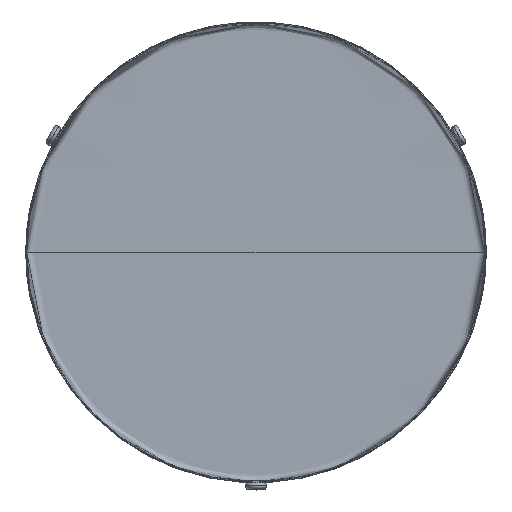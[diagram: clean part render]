
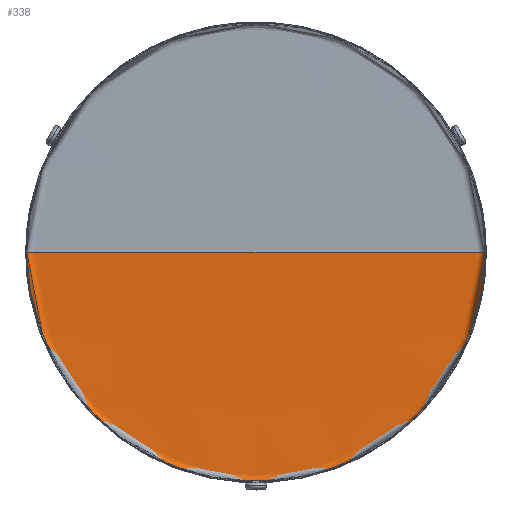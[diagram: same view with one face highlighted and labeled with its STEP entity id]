
A CAD part, top view. The second image highlights one B-rep face of the part: STEP entity #338.
In plain terms, the highlighted free-form (B-spline) face has degree [2, 2] with [7, 5] control points.
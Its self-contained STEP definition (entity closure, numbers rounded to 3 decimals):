
#338=ADVANCED_FACE('',(#365),#1251,.T.);
#365=FACE_OUTER_BOUND('',#393,.T.);
#393=EDGE_LOOP('',(#495,#496,#497));
#495=ORIENTED_EDGE('',*,*,#1027,.T.);
#496=ORIENTED_EDGE('',*,*,#1028,.T.);
#497=ORIENTED_EDGE('',*,*,#1029,.T.);
#599=PCURVE('',#1251,#703);
#600=PCURVE('',#1251,#704);
#601=PCURVE('',#1251,#705);
#703=DEFINITIONAL_REPRESENTATION('',(#819),#14479);
#704=DEFINITIONAL_REPRESENTATION('',(#820),#14479);
#705=DEFINITIONAL_REPRESENTATION('',(#821),#14479);
#819=B_SPLINE_CURVE_WITH_KNOTS('',1,(#14458,#14459),.UNSPECIFIED.,.F.,.F.,
(2,2),(137.712,275.425),.UNSPECIFIED.);
#820=B_SPLINE_CURVE_WITH_KNOTS('',1,(#14467,#14468),.UNSPECIFIED.,.F.,.F.,
(2,2),(-1069.794,0.),.UNSPECIFIED.);
#821=B_SPLINE_CURVE_WITH_KNOTS('',1,(#14476,#14477),.UNSPECIFIED.,.F.,.F.,
(2,2),(0.,1069.794),.UNSPECIFIED.);
#923=SURFACE_CURVE('',#1119,(#599),.PCURVE_S1.);
#924=SURFACE_CURVE('',#1120,(#600),.PCURVE_S1.);
#925=SURFACE_CURVE('',#1121,(#601),.PCURVE_S1.);
#1027=EDGE_CURVE('',#1223,#1224,#923,.T.);
#1028=EDGE_CURVE('',#1224,#1225,#924,.T.);
#1029=EDGE_CURVE('',#1225,#1223,#925,.T.);
#1119=(
BOUNDED_CURVE()
B_SPLINE_CURVE(2,(#14453,#14454,#14455,#14456,#14457),.UNSPECIFIED.,.F.,
 .F.)
B_SPLINE_CURVE_WITH_KNOTS((3,2,3),(137.712,206.569,275.425),
 .UNSPECIFIED.)
CURVE()
GEOMETRIC_REPRESENTATION_ITEM()
RATIONAL_B_SPLINE_CURVE((1.,0.707,1.,0.707,1.))
REPRESENTATION_ITEM('')
);
#1120=(
BOUNDED_CURVE()
B_SPLINE_CURVE(2,(#14460,#14461,#14462,#14463,#14464,#14465,#14466),
 .UNSPECIFIED.,.F.,.F.)
B_SPLINE_CURVE_WITH_KNOTS((3,2,2,3),(-1069.794,-920.833,
-871.199,0.),.UNSPECIFIED.)
CURVE()
GEOMETRIC_REPRESENTATION_ITEM()
RATIONAL_B_SPLINE_CURVE((1.,1.,1.,0.707,1.,1.,1.))
REPRESENTATION_ITEM('')
);
#1121=(
BOUNDED_CURVE()
B_SPLINE_CURVE(2,(#14469,#14470,#14471,#14472,#14473,#14474,#14475),
 .UNSPECIFIED.,.F.,.F.)
B_SPLINE_CURVE_WITH_KNOTS((3,2,2,3),(0.,871.199,920.833,
1069.794),.UNSPECIFIED.)
CURVE()
GEOMETRIC_REPRESENTATION_ITEM()
RATIONAL_B_SPLINE_CURVE((1.,1.,1.,0.707,1.,1.,1.))
REPRESENTATION_ITEM('')
);
#1223=VERTEX_POINT('',#14450);
#1224=VERTEX_POINT('',#14451);
#1225=VERTEX_POINT('',#14452);
#1251=(
BOUNDED_SURFACE()
B_SPLINE_SURFACE(2,2,((#14415,#14416,#14417,#14418,#14419),(#14420,#14421,
#14422,#14423,#14424),(#14425,#14426,#14427,#14428,#14429),(#14430,#14431,
#14432,#14433,#14434),(#14435,#14436,#14437,#14438,#14439),(#14440,#14441,
#14442,#14443,#14444),(#14445,#14446,#14447,#14448,#14449)),
 .UNSPECIFIED.,.F.,.F.,.F.)
B_SPLINE_SURFACE_WITH_KNOTS((3,2,2,3),(3,2,3),(0.,871.199,920.833,
1250.354),(137.712,206.569,275.425),
 .UNSPECIFIED.)
GEOMETRIC_REPRESENTATION_ITEM()
RATIONAL_B_SPLINE_SURFACE(((1.,0.707,1.,0.707,1.),
(1.,0.707,1.,0.707,1.),(1.,0.707,1.,
0.707,1.),(0.707,0.5,0.707,0.5,0.707),
(1.,0.707,1.,0.707,1.),(1.,0.707,1.,
0.707,1.),(1.,0.707,1.,0.707,1.)))
REPRESENTATION_ITEM('')
SURFACE()
);
#14415=CARTESIAN_POINT('',(-0.871,7.703,138.057));
#14416=CARTESIAN_POINT('',(-0.871,7.703,138.057));
#14417=CARTESIAN_POINT('',(-0.871,7.703,138.057));
#14418=CARTESIAN_POINT('',(-0.871,7.703,138.057));
#14419=CARTESIAN_POINT('',(-0.871,7.703,138.057));
#14420=CARTESIAN_POINT('',(-97.371,7.703,138.057));
#14421=CARTESIAN_POINT('',(-97.371,-88.797,138.057));
#14422=CARTESIAN_POINT('',(-0.871,-88.797,138.057));
#14423=CARTESIAN_POINT('',(95.629,-88.797,138.057));
#14424=CARTESIAN_POINT('',(95.629,7.703,138.057));
#14425=CARTESIAN_POINT('',(-193.871,7.703,138.057));
#14426=CARTESIAN_POINT('',(-193.871,-185.297,138.057));
#14427=CARTESIAN_POINT('',(-0.871,-185.297,138.057));
#14428=CARTESIAN_POINT('',(192.129,-185.297,138.057));
#14429=CARTESIAN_POINT('',(192.129,7.703,138.057));
#14430=CARTESIAN_POINT('',(-199.871,7.703,138.057));
#14431=CARTESIAN_POINT('',(-199.871,-191.297,138.057));
#14432=CARTESIAN_POINT('',(-0.871,-191.297,138.057));
#14433=CARTESIAN_POINT('',(198.129,-191.297,138.057));
#14434=CARTESIAN_POINT('',(198.129,7.703,138.057));
#14435=CARTESIAN_POINT('',(-199.871,7.703,144.057));
#14436=CARTESIAN_POINT('',(-199.871,-191.297,144.057));
#14437=CARTESIAN_POINT('',(-0.871,-191.297,144.057));
#14438=CARTESIAN_POINT('',(198.129,-191.297,144.057));
#14439=CARTESIAN_POINT('',(198.129,7.703,144.057));
#14440=CARTESIAN_POINT('',(-199.871,7.703,180.557));
#14441=CARTESIAN_POINT('',(-199.871,-191.297,180.557));
#14442=CARTESIAN_POINT('',(-0.871,-191.297,180.557));
#14443=CARTESIAN_POINT('',(198.129,-191.297,180.557));
#14444=CARTESIAN_POINT('',(198.129,7.703,180.557));
#14445=CARTESIAN_POINT('',(-199.871,7.703,217.057));
#14446=CARTESIAN_POINT('',(-199.871,-191.297,217.057));
#14447=CARTESIAN_POINT('',(-0.871,-191.297,217.057));
#14448=CARTESIAN_POINT('',(198.129,-191.297,217.057));
#14449=CARTESIAN_POINT('',(198.129,7.703,217.057));
#14450=CARTESIAN_POINT('',(-199.871,7.703,177.057));
#14451=CARTESIAN_POINT('',(198.129,7.703,177.057));
#14452=CARTESIAN_POINT('',(-0.871,7.703,138.057));
#14453=CARTESIAN_POINT('',(-199.871,7.703,177.057));
#14454=CARTESIAN_POINT('',(-199.871,-191.297,177.057));
#14455=CARTESIAN_POINT('',(-0.871,-191.297,177.057));
#14456=CARTESIAN_POINT('',(198.129,-191.297,177.057));
#14457=CARTESIAN_POINT('',(198.129,7.703,177.057));
#14458=CARTESIAN_POINT('',(1069.794,137.712));
#14459=CARTESIAN_POINT('',(1069.794,275.425));
#14460=CARTESIAN_POINT('',(198.129,7.703,177.057));
#14461=CARTESIAN_POINT('',(198.129,7.703,160.557));
#14462=CARTESIAN_POINT('',(198.129,7.703,144.057));
#14463=CARTESIAN_POINT('',(198.129,7.703,138.057));
#14464=CARTESIAN_POINT('',(192.129,7.703,138.057));
#14465=CARTESIAN_POINT('',(95.629,7.703,138.057));
#14466=CARTESIAN_POINT('',(-0.871,7.703,138.057));
#14467=CARTESIAN_POINT('',(1069.794,275.425));
#14468=CARTESIAN_POINT('',(0.,275.425));
#14469=CARTESIAN_POINT('',(-0.871,7.703,138.057));
#14470=CARTESIAN_POINT('',(-97.371,7.703,138.057));
#14471=CARTESIAN_POINT('',(-193.871,7.703,138.057));
#14472=CARTESIAN_POINT('',(-199.871,7.703,138.057));
#14473=CARTESIAN_POINT('',(-199.871,7.703,144.057));
#14474=CARTESIAN_POINT('',(-199.871,7.703,160.557));
#14475=CARTESIAN_POINT('',(-199.871,7.703,177.057));
#14476=CARTESIAN_POINT('',(0.,137.712));
#14477=CARTESIAN_POINT('',(1069.794,137.712));
#14479=(
GEOMETRIC_REPRESENTATION_CONTEXT(2)
PARAMETRIC_REPRESENTATION_CONTEXT()
REPRESENTATION_CONTEXT('pspace','')
);
